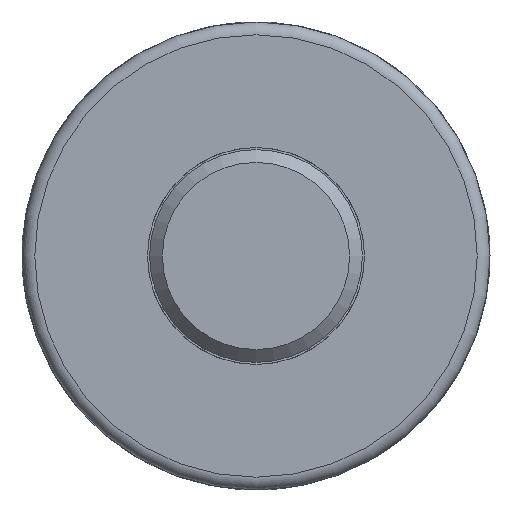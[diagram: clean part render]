
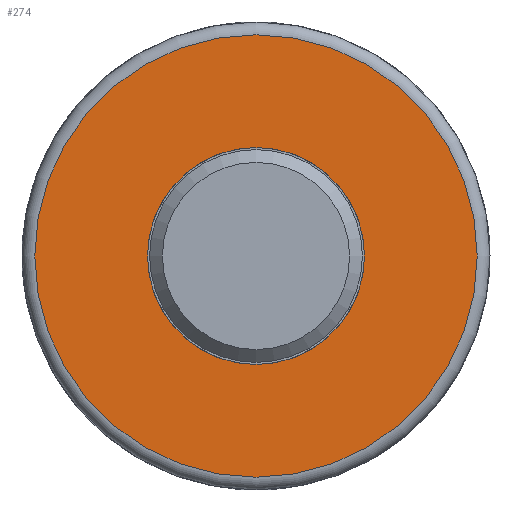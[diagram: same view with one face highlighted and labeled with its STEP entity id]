
A CAD part, front view. The second image highlights one B-rep face of the part: STEP entity #274.
In plain terms, the highlighted planar face has unit normal (0, -1, 0).
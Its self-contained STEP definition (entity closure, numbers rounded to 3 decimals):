
#274=ADVANCED_FACE('',(#355,#356),#308,.T.);
#308=PLANE('',#1111);
#323=CIRCLE('',#1096,2.55);
#332=CIRCLE('',#1110,5.2);
#355=FACE_BOUND('',#411,.T.);
#356=FACE_BOUND('',#412,.T.);
#411=EDGE_LOOP('',(#639));
#412=EDGE_LOOP('',(#640));
#639=ORIENTED_EDGE('',*,*,#922,.T.);
#640=ORIENTED_EDGE('',*,*,#913,.T.);
#789=VERTEX_POINT('',#2425);
#790=VERTEX_POINT('',#2440);
#913=EDGE_CURVE('',#789,#789,#323,.T.);
#922=EDGE_CURVE('',#790,#790,#332,.T.);
#1096=AXIS2_PLACEMENT_3D('',#2424,#1295,#1296);
#1110=AXIS2_PLACEMENT_3D('',#2439,#1323,#1324);
#1111=AXIS2_PLACEMENT_3D('',#2441,#1325,#1326);
#1295=DIRECTION('',(0.,1.,0.));
#1296=DIRECTION('',(1.,0.,0.));
#1323=DIRECTION('',(0.,-1.,0.));
#1324=DIRECTION('',(1.,0.,0.));
#1325=DIRECTION('',(0.,-1.,0.));
#1326=DIRECTION('',(-1.,0.,0.));
#2424=CARTESIAN_POINT('',(2.39,-21.9,0.));
#2425=CARTESIAN_POINT('',(4.94,-21.9,0.));
#2439=CARTESIAN_POINT('',(2.39,-21.9,0.));
#2440=CARTESIAN_POINT('',(7.59,-21.9,0.));
#2441=CARTESIAN_POINT('',(7.38,-21.9,0.));
